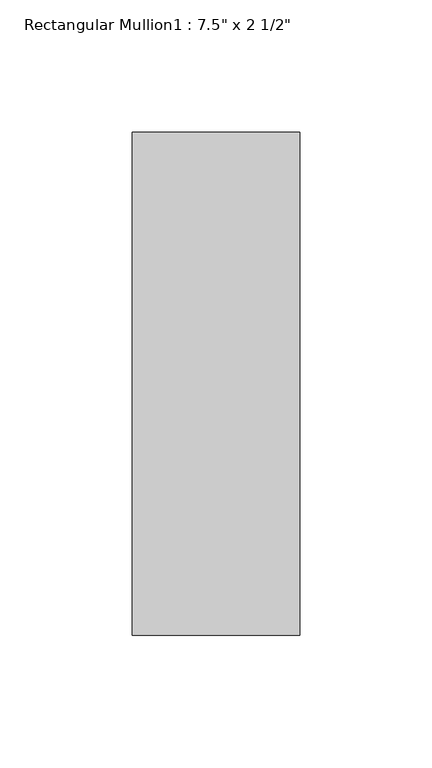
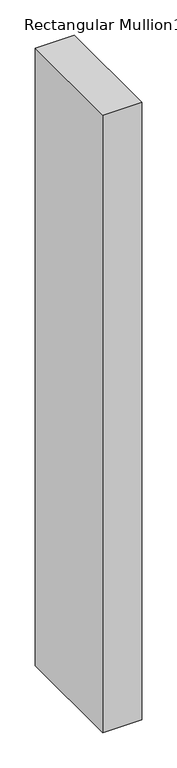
"""IFC4 building model written with IfcOpenShell, lengths in millimetres: member geometry."""

from ifc_helpers import new_model, si_unit, frame, origin, place, context, project, spatial, polyline, outline, extrude, source, transform, mapped, element, save


def member_b4c9f3d4(model_context):
    return source(origin(), model_context, "Body", "SweptSolid", [
        extrude(outline(polyline([(31.75, 165.1), (31.75, -25.4), (-31.75, -25.4), (-31.75, 165.1), (31.75, 165.1)])), frame((0.0, 0.0, -1066.8000021), z_axis=(0.0, 0.0, 1.0), x_axis=(1.0, 0.0, 0.0)), (0.0, 0.0, 1.0), 1066.8000021),
    ])


if __name__ == "__main__":
    model = new_model("IFC4")
    model_context = context("Model", 3, world=origin())
    ifc_project = project(units=[si_unit("LENGTHUNIT", "METRE", prefix="MILLI")], contexts=[model_context])
    site = spatial("IfcSite", under=ifc_project)
    building = spatial("IfcBuilding", under=site)
    placement = place(None, origin())
    member_shape = member_b4c9f3d4(model_context)
    element("IfcMember", 1, ObjectType="Rectangular Mullion1 : 7.5\" x 2 1/2\"", at=placement, inside=building, context=model_context, shape_type="MappedRepresentation", body=[
        mapped(member_shape, transform((0.0, 0.0, 0.0), x_axis=(1.0, 0.0, 0.0), y_axis=(0.0, 1.0, 0.0), z_axis=(0.0, 0.0, 1.0))),
    ])
    save(model, "model.ifc")
